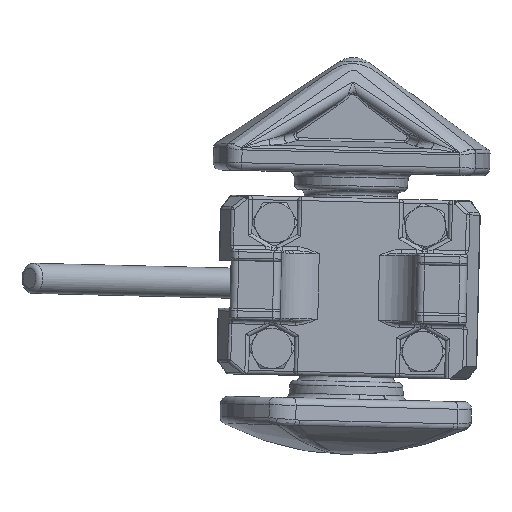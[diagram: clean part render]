
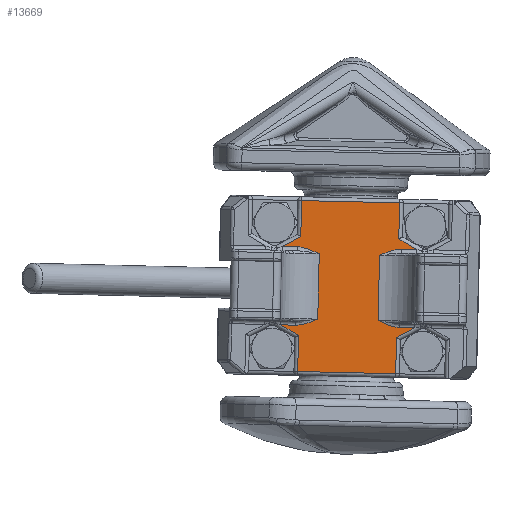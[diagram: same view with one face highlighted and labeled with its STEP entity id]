
A CAD part, top view. The second image highlights one B-rep face of the part: STEP entity #13669.
In plain terms, the highlighted planar face has unit normal (0, 0, 1).
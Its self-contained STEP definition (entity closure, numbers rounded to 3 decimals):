
#698=PLANE('',#14638);
#990=FACE_OUTER_BOUND('',#1890,.T.);
#1890=EDGE_LOOP('',(#9340,#9341,#9342,#9343,#9344,#9345,#9346,#9347,#9348,
#9349,#9350,#9351,#9352,#9353,#9354,#9355,#9356,#9357,#9358,#9359));
#3591=LINE('',#21121,#4559);
#3595=LINE('',#21155,#4563);
#3602=LINE('',#21176,#4570);
#3603=LINE('',#21178,#4571);
#3604=LINE('',#21180,#4572);
#3605=LINE('',#21182,#4573);
#3606=LINE('',#21184,#4574);
#3607=LINE('',#21195,#4575);
#3608=LINE('',#21206,#4576);
#3609=LINE('',#21208,#4577);
#3610=LINE('',#21210,#4578);
#3611=LINE('',#21212,#4579);
#3612=LINE('',#21214,#4580);
#3613=LINE('',#21216,#4581);
#3614=LINE('',#21218,#4582);
#3615=LINE('',#21228,#4583);
#4559=VECTOR('',#16429,10.);
#4563=VECTOR('',#16457,10.);
#4570=VECTOR('',#16478,10.);
#4571=VECTOR('',#16479,10.);
#4572=VECTOR('',#16480,10.);
#4573=VECTOR('',#16481,10.);
#4574=VECTOR('',#16482,10.);
#4575=VECTOR('',#16483,10.);
#4576=VECTOR('',#16484,10.);
#4577=VECTOR('',#16485,10.);
#4578=VECTOR('',#16486,10.);
#4579=VECTOR('',#16487,10.);
#4580=VECTOR('',#16488,10.);
#4581=VECTOR('',#16489,10.);
#4582=VECTOR('',#16490,10.);
#4583=VECTOR('',#16491,10.);
#5447=B_SPLINE_CURVE_WITH_KNOTS('',3,(#21005,#21006,#21007,#21008,#21009,
#21010,#21011,#21012),.UNSPECIFIED.,.F.,.F.,(4,1,1,2,4),(-0.915,
-0.549,-0.366,0.,0.002),
 .UNSPECIFIED.);
#5452=B_SPLINE_CURVE_WITH_KNOTS('',3,(#21186,#21187,#21188,#21189,#21190,
#21191,#21192,#21193),.UNSPECIFIED.,.F.,.F.,(4,2,1,1,4),(-0.917,
-0.915,-0.549,-0.366,0.),
 .UNSPECIFIED.);
#5453=B_SPLINE_CURVE_WITH_KNOTS('',3,(#21197,#21198,#21199,#21200,#21201,
#21202,#21203,#21204),.UNSPECIFIED.,.F.,.F.,(4,1,1,2,4),(-0.915,
-0.549,-0.366,0.,0.002),
 .UNSPECIFIED.);
#5454=B_SPLINE_CURVE_WITH_KNOTS('',3,(#21220,#21221,#21222,#21223,#21224,
#21225,#21226,#21227),.UNSPECIFIED.,.F.,.F.,(4,2,1,1,4),(-0.917,
-0.915,-0.549,-0.366,0.),
 .UNSPECIFIED.);
#5821=VERTEX_POINT('',#21003);
#5822=VERTEX_POINT('',#21004);
#5832=VERTEX_POINT('',#21115);
#5841=VERTEX_POINT('',#21153);
#5848=VERTEX_POINT('',#21175);
#5849=VERTEX_POINT('',#21177);
#5850=VERTEX_POINT('',#21179);
#5851=VERTEX_POINT('',#21181);
#5852=VERTEX_POINT('',#21183);
#5853=VERTEX_POINT('',#21185);
#5854=VERTEX_POINT('',#21194);
#5855=VERTEX_POINT('',#21196);
#5856=VERTEX_POINT('',#21205);
#5857=VERTEX_POINT('',#21207);
#5858=VERTEX_POINT('',#21209);
#5859=VERTEX_POINT('',#21211);
#5860=VERTEX_POINT('',#21213);
#5861=VERTEX_POINT('',#21215);
#5862=VERTEX_POINT('',#21217);
#5863=VERTEX_POINT('',#21219);
#7123=EDGE_CURVE('',#5821,#5822,#5447,.T.);
#7139=EDGE_CURVE('',#5832,#5821,#3591,.T.);
#7152=EDGE_CURVE('',#5841,#5832,#3595,.T.);
#7162=EDGE_CURVE('',#5848,#5841,#3602,.T.);
#7163=EDGE_CURVE('',#5849,#5848,#3603,.T.);
#7164=EDGE_CURVE('',#5850,#5849,#3604,.T.);
#7165=EDGE_CURVE('',#5851,#5850,#3605,.T.);
#7166=EDGE_CURVE('',#5852,#5851,#3606,.T.);
#7167=EDGE_CURVE('',#5853,#5852,#5452,.T.);
#7168=EDGE_CURVE('',#5854,#5853,#3607,.T.);
#7169=EDGE_CURVE('',#5855,#5854,#5453,.T.);
#7170=EDGE_CURVE('',#5856,#5855,#3608,.T.);
#7171=EDGE_CURVE('',#5857,#5856,#3609,.T.);
#7172=EDGE_CURVE('',#5858,#5857,#3610,.T.);
#7173=EDGE_CURVE('',#5859,#5858,#3611,.T.);
#7174=EDGE_CURVE('',#5860,#5859,#3612,.T.);
#7175=EDGE_CURVE('',#5861,#5860,#3613,.T.);
#7176=EDGE_CURVE('',#5862,#5861,#3614,.T.);
#7177=EDGE_CURVE('',#5863,#5862,#5454,.T.);
#7178=EDGE_CURVE('',#5863,#5822,#3615,.T.);
#9340=ORIENTED_EDGE('',*,*,#7123,.F.);
#9341=ORIENTED_EDGE('',*,*,#7139,.F.);
#9342=ORIENTED_EDGE('',*,*,#7152,.F.);
#9343=ORIENTED_EDGE('',*,*,#7162,.F.);
#9344=ORIENTED_EDGE('',*,*,#7163,.F.);
#9345=ORIENTED_EDGE('',*,*,#7164,.F.);
#9346=ORIENTED_EDGE('',*,*,#7165,.F.);
#9347=ORIENTED_EDGE('',*,*,#7166,.F.);
#9348=ORIENTED_EDGE('',*,*,#7167,.F.);
#9349=ORIENTED_EDGE('',*,*,#7168,.F.);
#9350=ORIENTED_EDGE('',*,*,#7169,.F.);
#9351=ORIENTED_EDGE('',*,*,#7170,.F.);
#9352=ORIENTED_EDGE('',*,*,#7171,.F.);
#9353=ORIENTED_EDGE('',*,*,#7172,.F.);
#9354=ORIENTED_EDGE('',*,*,#7173,.F.);
#9355=ORIENTED_EDGE('',*,*,#7174,.F.);
#9356=ORIENTED_EDGE('',*,*,#7175,.F.);
#9357=ORIENTED_EDGE('',*,*,#7176,.F.);
#9358=ORIENTED_EDGE('',*,*,#7177,.F.);
#9359=ORIENTED_EDGE('',*,*,#7178,.T.);
#13669=ADVANCED_FACE('',(#990),#698,.T.);
#14638=AXIS2_PLACEMENT_3D('',#21174,#16476,#16477);
#16429=DIRECTION('',(-1.,0.,0.));
#16457=DIRECTION('',(0.874,-0.486,0.));
#16476=DIRECTION('center_axis',(0.,0.,1.));
#16477=DIRECTION('ref_axis',(1.,0.,0.));
#16478=DIRECTION('',(0.,-1.,0.));
#16479=DIRECTION('',(1.,0.,0.));
#16480=DIRECTION('',(0.,1.,0.));
#16481=DIRECTION('',(0.874,0.486,0.));
#16482=DIRECTION('',(-1.,0.,0.));
#16483=DIRECTION('',(0.,1.,0.));
#16484=DIRECTION('',(1.,0.,0.));
#16485=DIRECTION('',(-0.874,0.486,0.));
#16486=DIRECTION('',(0.,1.,0.));
#16487=DIRECTION('',(-1.,0.,0.));
#16488=DIRECTION('',(0.,-1.,0.));
#16489=DIRECTION('',(-0.874,-0.486,0.));
#16490=DIRECTION('',(1.,0.,0.));
#16491=DIRECTION('',(0.,1.,0.));
#21003=CARTESIAN_POINT('',(20.743,25.1,29.));
#21004=CARTESIAN_POINT('',(12.,22.5,29.));
#21005=CARTESIAN_POINT('Ctrl Pts',(20.743,25.1,29.));
#21006=CARTESIAN_POINT('Ctrl Pts',(19.523,25.1,29.));
#21007=CARTESIAN_POINT('Ctrl Pts',(17.694,24.732,29.));
#21008=CARTESIAN_POINT('Ctrl Pts',(14.816,23.742,29.));
#21009=CARTESIAN_POINT('Ctrl Pts',(13.132,22.999,29.));
#21010=CARTESIAN_POINT('Ctrl Pts',(12.01,22.504,29.));
#21011=CARTESIAN_POINT('Ctrl Pts',(12.005,22.502,29.));
#21012=CARTESIAN_POINT('Ctrl Pts',(12.,22.5,29.));
#21115=CARTESIAN_POINT('',(26.731,25.1,29.));
#21121=CARTESIAN_POINT('',(12.5,25.1,29.));
#21153=CARTESIAN_POINT('',(19.5,29.117,29.));
#21155=CARTESIAN_POINT('',(18.531,29.656,29.));
#21174=CARTESIAN_POINT('Origin',(-12.,0.,29.));
#21175=CARTESIAN_POINT('',(19.5,43.5,29.));
#21176=CARTESIAN_POINT('',(19.5,15.,29.));
#21177=CARTESIAN_POINT('',(-19.5,43.5,29.));
#21178=CARTESIAN_POINT('',(-6.,43.5,29.));
#21179=CARTESIAN_POINT('',(-19.5,29.117,29.));
#21180=CARTESIAN_POINT('',(-19.5,22.5,29.));
#21181=CARTESIAN_POINT('',(-26.731,25.1,29.));
#21182=CARTESIAN_POINT('',(-23.201,27.061,29.));
#21183=CARTESIAN_POINT('',(-20.743,25.1,29.));
#21184=CARTESIAN_POINT('',(12.5,25.1,29.));
#21185=CARTESIAN_POINT('',(-12.,22.5,29.));
#21186=CARTESIAN_POINT('Ctrl Pts',(-12.,22.5,29.));
#21187=CARTESIAN_POINT('Ctrl Pts',(-12.005,22.502,29.));
#21188=CARTESIAN_POINT('Ctrl Pts',(-12.01,22.504,29.));
#21189=CARTESIAN_POINT('Ctrl Pts',(-13.132,22.999,29.));
#21190=CARTESIAN_POINT('Ctrl Pts',(-14.816,23.742,29.));
#21191=CARTESIAN_POINT('Ctrl Pts',(-17.694,24.732,29.));
#21192=CARTESIAN_POINT('Ctrl Pts',(-19.523,25.1,29.));
#21193=CARTESIAN_POINT('Ctrl Pts',(-20.743,25.1,29.));
#21194=CARTESIAN_POINT('',(-12.,-3.5,29.));
#21195=CARTESIAN_POINT('',(-12.,0.,29.));
#21196=CARTESIAN_POINT('',(-20.743,-6.1,29.));
#21197=CARTESIAN_POINT('Ctrl Pts',(-20.743,-6.1,29.));
#21198=CARTESIAN_POINT('Ctrl Pts',(-19.523,-6.1,
29.));
#21199=CARTESIAN_POINT('Ctrl Pts',(-17.694,-5.732,
29.));
#21200=CARTESIAN_POINT('Ctrl Pts',(-14.815,-4.742,
29.));
#21201=CARTESIAN_POINT('Ctrl Pts',(-13.132,-3.999,
29.));
#21202=CARTESIAN_POINT('Ctrl Pts',(-12.01,-3.504,
29.));
#21203=CARTESIAN_POINT('Ctrl Pts',(-12.005,-3.502,29.));
#21204=CARTESIAN_POINT('Ctrl Pts',(-12.,-3.5,29.));
#21205=CARTESIAN_POINT('',(-26.731,-6.1,29.));
#21206=CARTESIAN_POINT('',(-24.5,-6.1,29.));
#21207=CARTESIAN_POINT('',(-19.5,-10.117,29.));
#21208=CARTESIAN_POINT('',(-23.668,-7.802,29.));
#21209=CARTESIAN_POINT('',(-19.5,-24.5,29.));
#21210=CARTESIAN_POINT('',(-19.5,-5.5,29.));
#21211=CARTESIAN_POINT('',(19.5,-24.5,29.));
#21212=CARTESIAN_POINT('',(-6.,-24.5,29.));
#21213=CARTESIAN_POINT('',(19.5,-10.117,29.));
#21214=CARTESIAN_POINT('',(19.5,-13.,29.));
#21215=CARTESIAN_POINT('',(26.731,-6.1,29.));
#21216=CARTESIAN_POINT('',(9.998,-15.396,29.));
#21217=CARTESIAN_POINT('',(20.743,-6.1,29.));
#21218=CARTESIAN_POINT('',(-24.5,-6.1,29.));
#21219=CARTESIAN_POINT('',(12.,-3.5,29.));
#21220=CARTESIAN_POINT('Ctrl Pts',(12.,-3.5,29.));
#21221=CARTESIAN_POINT('Ctrl Pts',(12.005,-3.502,29.));
#21222=CARTESIAN_POINT('Ctrl Pts',(12.01,-3.504,29.));
#21223=CARTESIAN_POINT('Ctrl Pts',(13.132,-3.999,29.));
#21224=CARTESIAN_POINT('Ctrl Pts',(14.815,-4.742,29.));
#21225=CARTESIAN_POINT('Ctrl Pts',(17.694,-5.732,29.));
#21226=CARTESIAN_POINT('Ctrl Pts',(19.523,-6.1,29.));
#21227=CARTESIAN_POINT('Ctrl Pts',(20.743,-6.1,29.));
#21228=CARTESIAN_POINT('',(12.,0.,29.));
